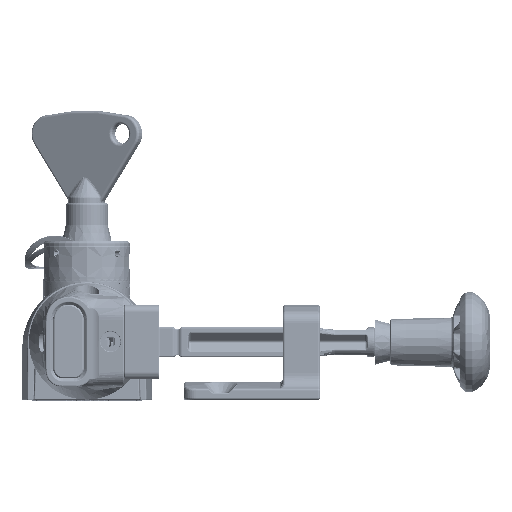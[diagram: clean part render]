
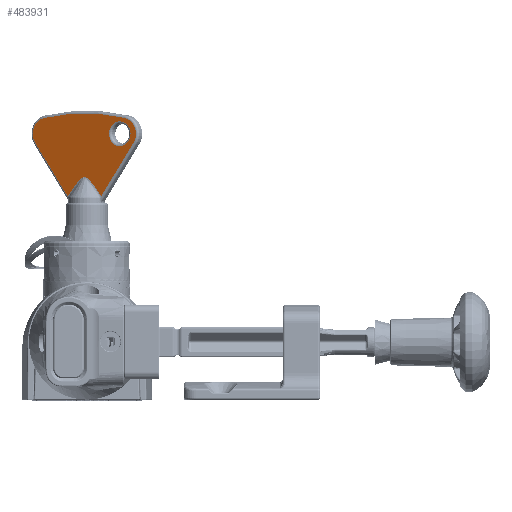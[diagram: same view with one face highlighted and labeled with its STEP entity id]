
A CAD part, top view. The second image highlights one B-rep face of the part: STEP entity #483931.
In plain terms, the highlighted planar face has unit normal (-0.5, 0, 0.866) as drawn and (0, 1, 0) by its records, which use the part's own axes.
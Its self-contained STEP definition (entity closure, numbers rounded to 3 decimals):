
#469831=CARTESIAN_POINT('',(7.773,2.,
24.988));
#470173=CARTESIAN_POINT('',(7.565,2.,
25.332));
#470174=CARTESIAN_POINT('',(7.29,2.,
25.697));
#470175=CARTESIAN_POINT('',(6.771,2.,
26.381));
#470176=CARTESIAN_POINT('',(6.088,2.,
27.264));
#470177=CARTESIAN_POINT('',(5.485,2.,
28.029));
#470178=CARTESIAN_POINT('',(4.949,2.,
28.692));
#470179=CARTESIAN_POINT('',(4.466,2.,
29.274));
#470180=CARTESIAN_POINT('',(4.027,2.,
29.786));
#470181=CARTESIAN_POINT('',(3.628,2.,
30.234));
#470182=CARTESIAN_POINT('',(3.268,2.,
30.622));
#470183=CARTESIAN_POINT('',(2.941,2.,30.958));
#470184=CARTESIAN_POINT('',(2.642,2.,31.248));
#470185=CARTESIAN_POINT('',(2.368,2.,31.499));
#470186=CARTESIAN_POINT('',(2.115,2.,31.715));
#470187=CARTESIAN_POINT('',(1.882,2.,31.899));
#470188=CARTESIAN_POINT('',(1.667,2.,32.055));
#470189=CARTESIAN_POINT('',(1.467,2.,32.187));
#470190=CARTESIAN_POINT('',(1.281,2.,32.298));
#470191=CARTESIAN_POINT('',(1.108,2.,32.389));
#470192=CARTESIAN_POINT('',(0.946,2.,32.464));
#470193=CARTESIAN_POINT('',(0.793,2.,32.525));
#470194=CARTESIAN_POINT('',(0.648,2.,32.573));
#470195=CARTESIAN_POINT('',(0.509,2.,32.61));
#470196=CARTESIAN_POINT('',(0.376,2.,32.638));
#470197=CARTESIAN_POINT('',(0.247,2.,32.657));
#470198=CARTESIAN_POINT('',(0.12,2.,32.668));
#470199=CARTESIAN_POINT('',(-0.005,2.,32.671));
#470200=CARTESIAN_POINT('',(-0.131,2.,32.667));
#470201=CARTESIAN_POINT('',(-0.258,2.,32.656));
#470202=CARTESIAN_POINT('',(-0.387,2.,32.636));
#470203=CARTESIAN_POINT('',(-0.521,2.,32.607));
#470204=CARTESIAN_POINT('',(-0.66,2.,32.569));
#470205=CARTESIAN_POINT('',(-0.806,2.,32.52));
#470206=CARTESIAN_POINT('',(-0.959,2.,32.458));
#470207=CARTESIAN_POINT('',(-1.123,2.,32.382));
#470208=CARTESIAN_POINT('',(-1.297,2.,32.289));
#470209=CARTESIAN_POINT('',(-1.484,2.,32.177));
#470210=CARTESIAN_POINT('',(-1.685,2.,32.043));
#470211=CARTESIAN_POINT('',(-1.902,2.,31.884));
#470212=CARTESIAN_POINT('',(-2.136,2.,31.697));
#470213=CARTESIAN_POINT('',(-2.39,2.,31.479));
#470214=CARTESIAN_POINT('',(-2.666,2.,31.225));
#470215=CARTESIAN_POINT('',(-2.968,2.,30.93));
#470216=CARTESIAN_POINT('',(-3.299,2.,30.59));
#470217=CARTESIAN_POINT('',(-3.662,2.,
30.197));
#470218=CARTESIAN_POINT('',(-4.062,2.,
29.746));
#470219=CARTESIAN_POINT('',(-4.503,2.,
29.23));
#470220=CARTESIAN_POINT('',(-4.995,2.,
28.636));
#470221=CARTESIAN_POINT('',(-5.547,2.,
27.952));
#470222=CARTESIAN_POINT('',(-6.158,2.,
27.175));
#470223=CARTESIAN_POINT('',(-6.827,2.,
26.307));
#470224=CARTESIAN_POINT('',(-7.313,2.,
25.667));
#470225=CARTESIAN_POINT('',(-7.565,2.,
25.332));
#470239=CARTESIAN_POINT('',(7.773,2.,
24.988));
#470240=CARTESIAN_POINT('',(7.754,2.,
25.028));
#470241=CARTESIAN_POINT('',(7.713,2.,
25.108));
#470242=CARTESIAN_POINT('',(7.644,2.,
25.223));
#470243=CARTESIAN_POINT('',(7.592,2.,
25.296));
#470244=CARTESIAN_POINT('',(7.565,2.,
25.332));
#470246=CARTESIAN_POINT('',(-16.5,2.,50.213));
#470247=DIRECTION('',(0.,-1.,0.));
#470248=DIRECTION('',(0.,0.,1.));
#470249=AXIS2_PLACEMENT_3D('',#470246,#470247,#470248);
#470261=CARTESIAN_POINT('',(-16.5,2.,50.213));
#470262=DIRECTION('',(0.,-1.,0.));
#470263=DIRECTION('',(0.,0.,-1.));
#470264=AXIS2_PLACEMENT_3D('',#470261,#470262,#470263);
#477389=DIRECTION('',(-0.574,0.,
0.819));
#477390=VECTOR('',#477389,26.242);
#477391=CARTESIAN_POINT('',(-7.773,2.,
24.988));
#477392=LINE('',#477391,#477390);
#477397=CARTESIAN_POINT('',(-17.5,2.,50.213));
#477398=DIRECTION('',(0.,1.,0.));
#477399=DIRECTION('',(-0.819,0.,-0.574));
#477400=AXIS2_PLACEMENT_3D('',#477397,#477398,#477399);
#477412=CARTESIAN_POINT('',(0.,2.,-34.569));
#477413=DIRECTION('',(0.,1.,0.));
#477414=DIRECTION('',(-0.202,0.,0.979));
#477415=AXIS2_PLACEMENT_3D('',#477412,#477413,#477414);
#477427=CARTESIAN_POINT('',(17.5,2.,50.213));
#477428=DIRECTION('',(0.,1.,0.));
#477429=DIRECTION('',(0.202,0.,0.979));
#477430=AXIS2_PLACEMENT_3D('',#477427,#477428,#477429);
#477451=DIRECTION('',(-0.574,0.,
-0.819));
#477452=VECTOR('',#477451,26.242);
#477453=CARTESIAN_POINT('',(22.824,2.,46.484));
#477454=LINE('',#477453,#477452);
#478318=CARTESIAN_POINT('',(-7.565,2.,
25.332));
#478319=CARTESIAN_POINT('',(-7.592,2.,
25.296));
#478320=CARTESIAN_POINT('',(-7.644,2.,
25.223));
#478321=CARTESIAN_POINT('',(-7.713,2.,
25.108));
#478322=CARTESIAN_POINT('',(-7.754,2.,
25.028));
#478323=CARTESIAN_POINT('',(-7.773,2.,
24.988));
#479989=CARTESIAN_POINT('',(-16.5,2.,55.213));
#479990=CARTESIAN_POINT('',(-16.5,2.,45.213));
#479991=VERTEX_POINT('',#479989);
#479992=VERTEX_POINT('',#479990);
#479997=CARTESIAN_POINT('',(18.814,2.,56.579));
#479998=CARTESIAN_POINT('',(22.824,2.,46.484));
#479999=VERTEX_POINT('',#479997);
#480000=VERTEX_POINT('',#479998);
#480001=CARTESIAN_POINT('',(-18.814,2.,56.579));
#480002=VERTEX_POINT('',#480001);
#480003=CARTESIAN_POINT('',(-22.824,2.,46.484));
#480004=VERTEX_POINT('',#480003);
#481378=VERTEX_POINT('',#469831);
#481380=VERTEX_POINT('',#470244);
#481382=VERTEX_POINT('',#470225);
#481384=VERTEX_POINT('',#478323);
#483904=CARTESIAN_POINT('',(0.,2.,0.));
#483905=DIRECTION('',(0.,1.,0.));
#483906=DIRECTION('',(0.,0.,1.));
#483907=AXIS2_PLACEMENT_3D('',#483904,#483905,#483906);
#483908=PLANE('',#483907);
#483909=ORIENTED_EDGE('',*,*,#483898,.F.);
#483911=ORIENTED_EDGE('',*,*,#483910,.F.);
#483913=ORIENTED_EDGE('',*,*,#483912,.F.);
#483915=ORIENTED_EDGE('',*,*,#483914,.F.);
#483917=ORIENTED_EDGE('',*,*,#483916,.F.);
#483919=ORIENTED_EDGE('',*,*,#483918,.F.);
#483921=ORIENTED_EDGE('',*,*,#483920,.F.);
#483922=ORIENTED_EDGE('',*,*,#483864,.F.);
#483923=EDGE_LOOP('',(#483909,#483911,#483913,#483915,#483917,#483919,#483921,
#483922));
#483924=FACE_OUTER_BOUND('',#483923,.F.);
#483926=ORIENTED_EDGE('',*,*,#483925,.F.);
#483928=ORIENTED_EDGE('',*,*,#483927,.F.);
#483929=EDGE_LOOP('',(#483926,#483928));
#483930=FACE_BOUND('',#483929,.F.);
#483931=ADVANCED_FACE('',(#483924,#483930),#483908,.T.);
#470226=B_SPLINE_CURVE_WITH_KNOTS('',3,(#470173,#470174,#470175,#470176,#470177,
#470178,#470179,#470180,#470181,#470182,#470183,#470184,#470185,#470186,#470187,
#470188,#470189,#470190,#470191,#470192,#470193,#470194,#470195,#470196,#470197,
#470198,#470199,#470200,#470201,#470202,#470203,#470204,#470205,#470206,#470207,
#470208,#470209,#470210,#470211,#470212,#470213,#470214,#470215,#470216,#470217,
#470218,#470219,#470220,#470221,#470222,#470223,#470224,#470225),.UNSPECIFIED.,
.F.,.F.,(4,1,1,1,1,1,1,1,1,1,1,1,1,1,1,1,1,1,1,1,1,1,1,1,1,1,1,1,1,1,1,1,1,1,1,
1,1,1,1,1,1,1,1,1,1,1,1,1,1,1,4),(0.,0.02,0.04,0.06,0.08,0.1,0.12,
0.14,0.16,0.18,0.2,0.22,0.24,0.26,0.28,0.3,0.32,0.34,
0.36,0.38,0.4,0.42,0.44,0.46,0.48,0.5,0.52,0.54,0.56,
0.58,0.6,0.62,0.64,0.66,0.68,0.7,0.72,0.74,0.76,0.78,
0.8,0.82,0.84,0.86,0.88,0.9,0.92,0.94,0.96,0.98,1.),
.UNSPECIFIED.);
#470245=B_SPLINE_CURVE_WITH_KNOTS('',3,(#470239,#470240,#470241,#470242,#470243,
#470244),.UNSPECIFIED.,.F.,.F.,(4,1,1,4),(0.,0.333,
0.667,1.),.UNSPECIFIED.);
#470250=CIRCLE('',#470249,5.);
#470265=CIRCLE('',#470264,5.);
#477401=CIRCLE('',#477400,6.5);
#477416=CIRCLE('',#477415,93.069);
#477431=CIRCLE('',#477430,6.5);
#478324=B_SPLINE_CURVE_WITH_KNOTS('',3,(#478318,#478319,#478320,#478321,#478322,
#478323),.UNSPECIFIED.,.F.,.F.,(4,1,1,4),(0.,0.333,
0.667,1.),.UNSPECIFIED.);
#483864=EDGE_CURVE('',#481380,#481382,#470226,.T.);
#483898=EDGE_CURVE('',#481378,#481380,#470245,.T.);
#483910=EDGE_CURVE('',#480000,#481378,#477454,.T.);
#483912=EDGE_CURVE('',#479999,#480000,#477431,.T.);
#483914=EDGE_CURVE('',#480002,#479999,#477416,.T.);
#483916=EDGE_CURVE('',#480004,#480002,#477401,.T.);
#483918=EDGE_CURVE('',#481384,#480004,#477392,.T.);
#483920=EDGE_CURVE('',#481382,#481384,#478324,.T.);
#483925=EDGE_CURVE('',#479991,#479992,#470250,.T.);
#483927=EDGE_CURVE('',#479992,#479991,#470265,.T.);
